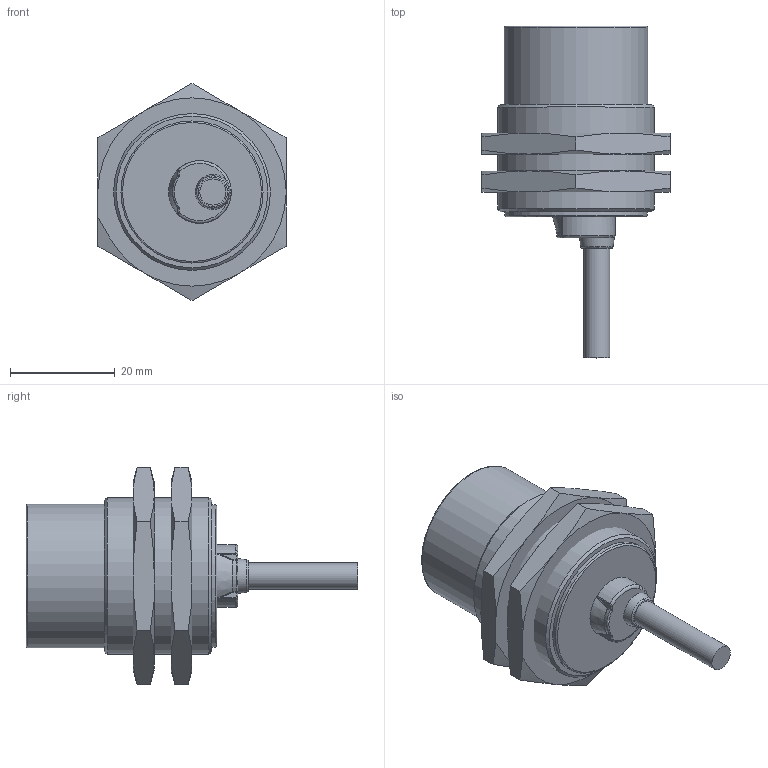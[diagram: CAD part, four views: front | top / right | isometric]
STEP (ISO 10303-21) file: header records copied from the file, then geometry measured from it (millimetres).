
FILE_DESCRIPTION(/* description */ (''),/* implementation_level */ '2;1');
FILE_NAME(/* name */ '3DCAD_ISS_130MM_xNO_x5N.stp',/* time_stamp */ '2019-03-19T14:50:52+01:00',/* author */ ('CC2'),/* organization */ ('Leuze electronic'),/* preprocessor_version */ 'ST-DEVELOPER v16',/* originating_system */ 'SIEMENS PLM Software NX 11.0',/* authorisation */ '');
FILE_SCHEMA (('AUTOMOTIVE_DESIGN { 1 0 10303 214 3 1 1 1 }'));
Length unit declared in the file: millimetre
Products named in the file (2): 012169_00.0_1-SKT-Mutter M30 SW36; 19-102897_00_1-3DCAD_ISS_130MM_xNO_x5N
Assembly tree (2 placements, depth 2):
  19-102897_00_1-3DCAD_ISS_130MM_xNO_x5N
    012169_00.0_1-SKT-Mutter M30 SW36  x2
Bounding box: 36 x 63.5 x 41.57 mm (x, y, z)
Volume: 23373 mm3; surface area: 13213.4 mm2
Topology: 3 solids, 5 shells, 121 faces, 310 edges, 199 vertices
Faces by surface type: plane 45, bspline 36, cylinder 29, torus 6, cone 3, sphere 2
Full cylindrical faces by diameter (mm): 5 x1, 5.4 x1, 10.8 x1, 25.95 x1, 27.2 x1, 27.5 x1, 28.376 x2, 30 x1
Entity records: 3990 total; most frequent: CARTESIAN_POINT 1748, ORIENTED_EDGE 464, DIRECTION 418, EDGE_CURVE 232, AXIS2_PLACEMENT_3D 165, VERTEX_POINT 155, EDGE_LOOP 125, ADVANCED_FACE 100
